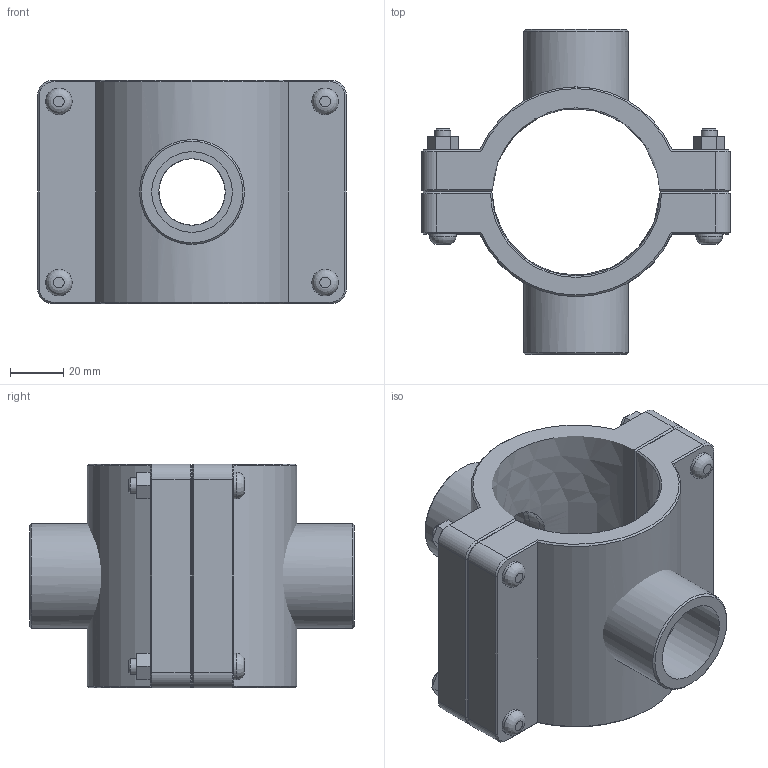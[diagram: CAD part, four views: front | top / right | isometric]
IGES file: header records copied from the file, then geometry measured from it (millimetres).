
Global section: file name: 161760063010_161860063010.ipt; native system: Autodesk Inventor 2015; preprocessor: unknown; author: KIM; date: 20170618.093705; units: millimetre
Bounding box: 116 x 122 x 84 mm (x, y, z)
Volume: 277670 mm3; surface area: 73643.6 mm2
Topology: 3 solids, 3 shells, 151 faces, 350 edges, 221 vertices
Faces by surface type: plane 84, cone 26, cylinder 24, revolution 17
Full cylindrical faces by diameter (mm): 6 x4, 10 x8, 39.378 x2
